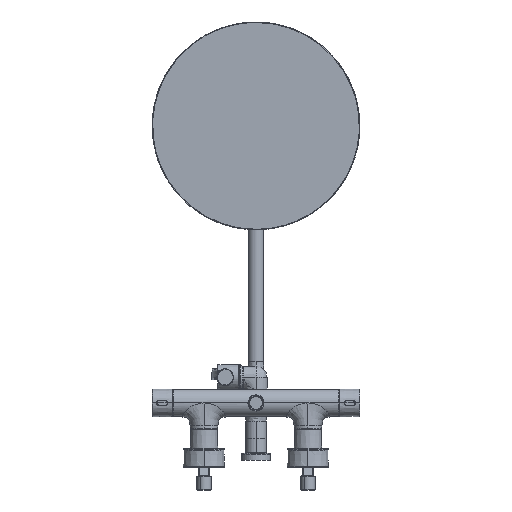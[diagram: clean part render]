
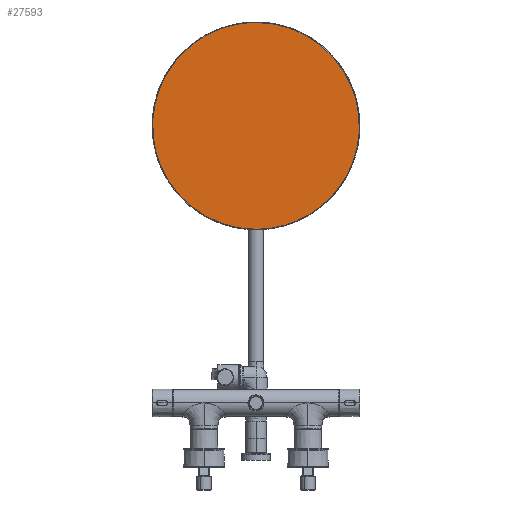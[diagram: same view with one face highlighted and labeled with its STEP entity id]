
A CAD part, front view. The second image highlights one B-rep face of the part: STEP entity #27593.
In plain terms, the highlighted planar face has unit normal (0, -1, 0).
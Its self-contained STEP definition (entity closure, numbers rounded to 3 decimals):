
#1067 = CARTESIAN_POINT ( 'NONE',  ( 0.655, 1112.297, 549.197 ) ) ;
#5405 = VERTEX_POINT ( 'NONE', #33165 ) ;
#5855 =( BOUNDED_CURVE ( )  B_SPLINE_CURVE ( 3, ( #45862, #35275, #13993, #34676 ),
 .UNSPECIFIED., .F., .T. ) 
 B_SPLINE_CURVE_WITH_KNOTS ( ( 4, 4 ),
 ( 0.001, 1. ),
 .UNSPECIFIED. ) 
 CURVE ( )  GEOMETRIC_REPRESENTATION_ITEM ( )  RATIONAL_B_SPLINE_CURVE ( ( 1., 0.335, 0.335, 1. ) ) 
 REPRESENTATION_ITEM ( '' )  );
#6017 = CARTESIAN_POINT ( 'NONE',  ( 0., 1112.297, 250.801 ) ) ;
#6055 = CARTESIAN_POINT ( 'NONE',  ( 0., 1112.297, 250.801 ) ) ;
#6472 = EDGE_CURVE ( 'NONE', #38167, #5405, #38359, .T. ) ;
#6548 = EDGE_CURVE ( 'NONE', #13966, #38167, #5855, .T. ) ;
#7040 =( BOUNDED_CURVE ( )  B_SPLINE_CURVE ( 3, ( #22406, #15541, #18667, #1067 ),
 .UNSPECIFIED., .F., .T. ) 
 B_SPLINE_CURVE_WITH_KNOTS ( ( 4, 4 ),
 ( 0., 0.001 ),
 .UNSPECIFIED. ) 
 CURVE ( )  GEOMETRIC_REPRESENTATION_ITEM ( )  RATIONAL_B_SPLINE_CURVE ( ( 1., 1., 1., 1. ) ) 
 REPRESENTATION_ITEM ( '' )  );
#10977 = FACE_OUTER_BOUND ( 'NONE', #23808, .T. ) ;
#11824 = EDGE_CURVE ( 'NONE', #5405, #40993, #22152, .T. ) ;
#13002 = ORIENTED_EDGE ( 'NONE', *, *, #11824, .F. ) ;
#13966 = VERTEX_POINT ( 'NONE', #29680 ) ;
#13993 = CARTESIAN_POINT ( 'NONE',  ( 297.093, 1112.297, 250.801 ) ) ;
#15219 = ORIENTED_EDGE ( 'NONE', *, *, #32424, .F. ) ;
#15541 = CARTESIAN_POINT ( 'NONE',  ( 0.218, 1112.297, 549.199 ) ) ;
#17167 = DIRECTION ( 'NONE',  ( 0., -1., 0. ) ) ;
#18667 = CARTESIAN_POINT ( 'NONE',  ( 0.437, 1112.297, 549.198 ) ) ;
#19526 = ORIENTED_EDGE ( 'NONE', *, *, #6472, .F. ) ;
#20889 = DIRECTION ( 'NONE',  ( 0., 0., -1. ) ) ;
#22152 =( BOUNDED_CURVE ( )  B_SPLINE_CURVE ( 3, ( #42546, #45013, #46086, #38946 ),
 .UNSPECIFIED., .F., .T. ) 
 B_SPLINE_CURVE_WITH_KNOTS ( ( 4, 4 ),
 ( 0.001, 1. ),
 .UNSPECIFIED. ) 
 CURVE ( )  GEOMETRIC_REPRESENTATION_ITEM ( )  RATIONAL_B_SPLINE_CURVE ( ( 1., 0.335, 0.335, 1. ) ) 
 REPRESENTATION_ITEM ( '' )  );
#22406 = CARTESIAN_POINT ( 'NONE',  ( 0., 1112.297, 549.199 ) ) ;
#23808 = EDGE_LOOP ( 'NONE', ( #15219, #13002, #19526, #35621 ) ) ;
#26038 = PLANE ( 'NONE',  #33299 ) ;
#27550 = CARTESIAN_POINT ( 'NONE',  ( -0.437, 1112.297, 250.802 ) ) ;
#27593 = ADVANCED_FACE ( 'NONE', ( #10977 ), #26038, .T. ) ;
#27695 = CARTESIAN_POINT ( 'NONE',  ( -0.218, 1112.297, 250.801 ) ) ;
#29680 = CARTESIAN_POINT ( 'NONE',  ( 0.655, 1112.297, 549.197 ) ) ;
#32424 = EDGE_CURVE ( 'NONE', #40993, #13966, #7040, .T. ) ;
#32863 = CARTESIAN_POINT ( 'NONE',  ( 0., 1112.297, 549.199 ) ) ;
#33165 = CARTESIAN_POINT ( 'NONE',  ( -0.655, 1112.297, 250.803 ) ) ;
#33299 = AXIS2_PLACEMENT_3D ( 'NONE', #41720, #17167, #20889 ) ;
#34676 = CARTESIAN_POINT ( 'NONE',  ( 0., 1112.297, 250.801 ) ) ;
#35275 = CARTESIAN_POINT ( 'NONE',  ( 297.745, 1112.297, 547.893 ) ) ;
#35621 = ORIENTED_EDGE ( 'NONE', *, *, #6548, .F. ) ;
#38167 = VERTEX_POINT ( 'NONE', #6017 ) ;
#38359 =( BOUNDED_CURVE ( )  B_SPLINE_CURVE ( 3, ( #6055, #27695, #27550, #42296 ),
 .UNSPECIFIED., .F., .T. ) 
 B_SPLINE_CURVE_WITH_KNOTS ( ( 4, 4 ),
 ( 0., 0.001 ),
 .UNSPECIFIED. ) 
 CURVE ( )  GEOMETRIC_REPRESENTATION_ITEM ( )  RATIONAL_B_SPLINE_CURVE ( ( 1., 1., 1., 1. ) ) 
 REPRESENTATION_ITEM ( '' )  );
#38946 = CARTESIAN_POINT ( 'NONE',  ( 0., 1112.297, 549.199 ) ) ;
#40993 = VERTEX_POINT ( 'NONE', #32863 ) ;
#41720 = CARTESIAN_POINT ( 'NONE',  ( 0., 1112.297, 400. ) ) ;
#42296 = CARTESIAN_POINT ( 'NONE',  ( -0.655, 1112.297, 250.803 ) ) ;
#42546 = CARTESIAN_POINT ( 'NONE',  ( -0.655, 1112.297, 250.803 ) ) ;
#45013 = CARTESIAN_POINT ( 'NONE',  ( -297.745, 1112.297, 252.107 ) ) ;
#45862 = CARTESIAN_POINT ( 'NONE',  ( 0.655, 1112.297, 549.197 ) ) ;
#46086 = CARTESIAN_POINT ( 'NONE',  ( -297.093, 1112.297, 549.199 ) ) ;
